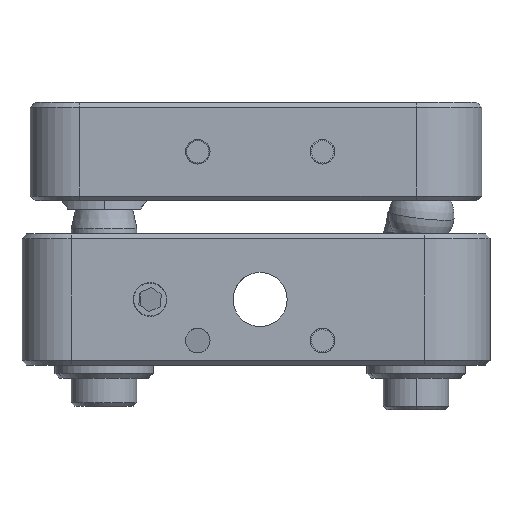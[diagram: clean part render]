
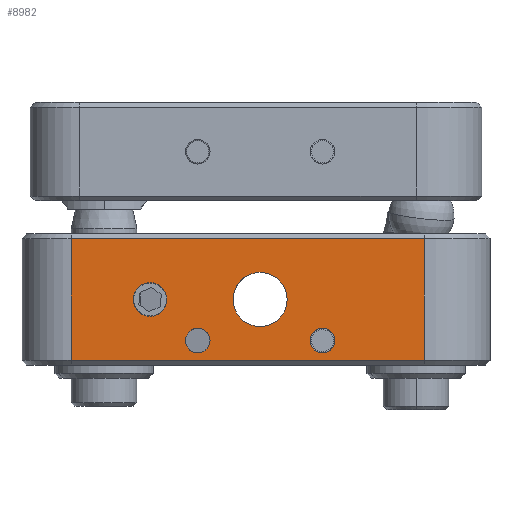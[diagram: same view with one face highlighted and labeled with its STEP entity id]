
A CAD part, front view. The second image highlights one B-rep face of the part: STEP entity #8982.
In plain terms, the highlighted planar face has unit normal (0, -1, 0).
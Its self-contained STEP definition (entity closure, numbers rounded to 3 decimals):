
#30 = AXIS2_PLACEMENT_3D ( 'NONE', #1305, #5904, #2273 ) ;
#134 = DIRECTION ( 'NONE',  ( 0., -1., 0. ) ) ;
#167 = CARTESIAN_POINT ( 'NONE',  ( 10., -14., -8.3 ) ) ;
#255 = CARTESIAN_POINT ( 'NONE',  ( -14.5, -14., -15.7 ) ) ;
#379 = EDGE_LOOP ( 'NONE', ( #8639, #11217, #6384, #1316 ) ) ;
#513 = CARTESIAN_POINT ( 'NONE',  ( 10., -14., -8. ) ) ;
#583 = CARTESIAN_POINT ( 'NONE',  ( 0., -14., -12. ) ) ;
#850 = DIRECTION ( 'NONE',  ( 0., 0., 1. ) ) ;
#1021 = ORIENTED_EDGE ( 'NONE', *, *, #6367, .F. ) ;
#1166 = CARTESIAN_POINT ( 'NONE',  ( -3.8, -14., -14.5 ) ) ;
#1255 = EDGE_LOOP ( 'NONE', ( #2124, #2024 ) ) ;
#1305 = CARTESIAN_POINT ( 'NONE',  ( 3.8, -14., -14.5 ) ) ;
#1316 = ORIENTED_EDGE ( 'NONE', *, *, #5054, .T. ) ;
#1319 = ORIENTED_EDGE ( 'NONE', *, *, #8946, .F. ) ;
#1373 = AXIS2_PLACEMENT_3D ( 'NONE', #583, #9591, #8728 ) ;
#1546 = CARTESIAN_POINT ( 'NONE',  ( -3.8, -14., -15.25 ) ) ;
#1609 = CARTESIAN_POINT ( 'NONE',  ( -14.5, -14., -8. ) ) ;
#1715 = DIRECTION ( 'NONE',  ( 0., -1., 0. ) ) ;
#1918 = DIRECTION ( 'NONE',  ( 0., -1., 0. ) ) ;
#1991 = VERTEX_POINT ( 'NONE', #9292 ) ;
#2024 = ORIENTED_EDGE ( 'NONE', *, *, #6048, .F. ) ;
#2043 = EDGE_CURVE ( 'NONE', #4611, #10778, #7276, .T. ) ;
#2087 = DIRECTION ( 'NONE',  ( 0., 0., 1. ) ) ;
#2124 = ORIENTED_EDGE ( 'NONE', *, *, #4604, .F. ) ;
#2126 = DIRECTION ( 'NONE',  ( 0., -1., 0. ) ) ;
#2185 = EDGE_LOOP ( 'NONE', ( #1021, #3150 ) ) ;
#2273 = DIRECTION ( 'NONE',  ( 0., 0., 1. ) ) ;
#2342 = ORIENTED_EDGE ( 'NONE', *, *, #10282, .F. ) ;
#2377 = FACE_BOUND ( 'NONE', #5579, .T. ) ;
#2535 = PLANE ( 'NONE',  #4433 ) ;
#2547 = DIRECTION ( 'NONE',  ( 0., 0., 1. ) ) ;
#2996 = ORIENTED_EDGE ( 'NONE', *, *, #10758, .F. ) ;
#3150 = ORIENTED_EDGE ( 'NONE', *, *, #4980, .F. ) ;
#3360 = VECTOR ( 'NONE', #3993, 1000. ) ;
#3375 = CIRCLE ( 'NONE', #1373, 1.65 ) ;
#3410 = DIRECTION ( 'NONE',  ( 0., -1., 0. ) ) ;
#3452 = EDGE_CURVE ( 'NONE', #8573, #6971, #8873, .T. ) ;
#3456 = VERTEX_POINT ( 'NONE', #6256 ) ;
#3493 = AXIS2_PLACEMENT_3D ( 'NONE', #1166, #2126, #2087 ) ;
#3614 = CARTESIAN_POINT ( 'NONE',  ( -11.5, -14., -15.7 ) ) ;
#3758 = VERTEX_POINT ( 'NONE', #8585 ) ;
#3872 = LINE ( 'NONE', #513, #5700 ) ;
#3888 = CIRCLE ( 'NONE', #11311, 0.75 ) ;
#3993 = DIRECTION ( 'NONE',  ( -1., 0., 0. ) ) ;
#4029 = DIRECTION ( 'NONE',  ( 0., -1., 0. ) ) ;
#4078 = CIRCLE ( 'NONE', #5070, 1.025 ) ;
#4157 = EDGE_CURVE ( 'NONE', #7408, #4611, #5492, .T. ) ;
#4403 = DIRECTION ( 'NONE',  ( 0., 1., 0. ) ) ;
#4433 = AXIS2_PLACEMENT_3D ( 'NONE', #1609, #4403, #8803 ) ;
#4585 = ORIENTED_EDGE ( 'NONE', *, *, #3452, .F. ) ;
#4604 = EDGE_CURVE ( 'NONE', #3758, #6758, #4078, .T. ) ;
#4608 = CARTESIAN_POINT ( 'NONE',  ( 10., -14., -15.7 ) ) ;
#4611 = VERTEX_POINT ( 'NONE', #3614 ) ;
#4618 = CARTESIAN_POINT ( 'NONE',  ( 0., -14., -12. ) ) ;
#4641 = CIRCLE ( 'NONE', #3493, 0.75 ) ;
#4768 = LINE ( 'NONE', #6687, #3360 ) ;
#4980 = EDGE_CURVE ( 'NONE', #8368, #3456, #4641, .T. ) ;
#5054 = EDGE_CURVE ( 'NONE', #5692, #7408, #4768, .T. ) ;
#5070 = AXIS2_PLACEMENT_3D ( 'NONE', #9768, #1715, #850 ) ;
#5492 = LINE ( 'NONE', #10859, #10834 ) ;
#5579 = EDGE_LOOP ( 'NONE', ( #2342, #2996 ) ) ;
#5585 = DIRECTION ( 'NONE',  ( 0., 0., -1. ) ) ;
#5692 = VERTEX_POINT ( 'NONE', #167 ) ;
#5700 = VECTOR ( 'NONE', #11183, 1000. ) ;
#5755 = VERTEX_POINT ( 'NONE', #8421 ) ;
#5863 = CARTESIAN_POINT ( 'NONE',  ( -6.7, -14., -13.025 ) ) ;
#5904 = DIRECTION ( 'NONE',  ( 0., -1., 0. ) ) ;
#6048 = EDGE_CURVE ( 'NONE', #6758, #3758, #6579, .T. ) ;
#6256 = CARTESIAN_POINT ( 'NONE',  ( -3.8, -14., -13.75 ) ) ;
#6367 = EDGE_CURVE ( 'NONE', #3456, #8368, #10932, .T. ) ;
#6384 = ORIENTED_EDGE ( 'NONE', *, *, #11066, .T. ) ;
#6469 = FACE_OUTER_BOUND ( 'NONE', #379, .T. ) ;
#6579 = CIRCLE ( 'NONE', #7403, 1.025 ) ;
#6687 = CARTESIAN_POINT ( 'NONE',  ( -11.5, -14., -8.3 ) ) ;
#6758 = VERTEX_POINT ( 'NONE', #5863 ) ;
#6971 = VERTEX_POINT ( 'NONE', #8838 ) ;
#7030 = FACE_BOUND ( 'NONE', #1255, .T. ) ;
#7222 = DIRECTION ( 'NONE',  ( 0., 0., 1. ) ) ;
#7276 = LINE ( 'NONE', #255, #10225 ) ;
#7403 = AXIS2_PLACEMENT_3D ( 'NONE', #10519, #3410, #2547 ) ;
#7408 = VERTEX_POINT ( 'NONE', #7836 ) ;
#7545 = AXIS2_PLACEMENT_3D ( 'NONE', #4618, #1918, #10885 ) ;
#7689 = EDGE_LOOP ( 'NONE', ( #4585, #1319 ) ) ;
#7836 = CARTESIAN_POINT ( 'NONE',  ( -11.5, -14., -8.3 ) ) ;
#8157 = AXIS2_PLACEMENT_3D ( 'NONE', #11262, #4029, #8360 ) ;
#8229 = CIRCLE ( 'NONE', #30, 0.75 ) ;
#8360 = DIRECTION ( 'NONE',  ( 0., 0., 1. ) ) ;
#8368 = VERTEX_POINT ( 'NONE', #1546 ) ;
#8421 = CARTESIAN_POINT ( 'NONE',  ( 3.8, -14., -15.25 ) ) ;
#8573 = VERTEX_POINT ( 'NONE', #10833 ) ;
#8585 = CARTESIAN_POINT ( 'NONE',  ( -6.7, -14., -10.975 ) ) ;
#8639 = ORIENTED_EDGE ( 'NONE', *, *, #4157, .T. ) ;
#8728 = DIRECTION ( 'NONE',  ( 0., 0., 1. ) ) ;
#8803 = DIRECTION ( 'NONE',  ( -1., 0., 0. ) ) ;
#8838 = CARTESIAN_POINT ( 'NONE',  ( 0., -14., -13.65 ) ) ;
#8846 = FACE_BOUND ( 'NONE', #2185, .T. ) ;
#8873 = CIRCLE ( 'NONE', #7545, 1.65 ) ;
#8946 = EDGE_CURVE ( 'NONE', #6971, #8573, #3375, .T. ) ;
#8982 = ADVANCED_FACE ( 'NONE', ( #2377, #8846, #6469, #10113, #7030 ), #2535, .F. ) ;
#9292 = CARTESIAN_POINT ( 'NONE',  ( 3.8, -14., -13.75 ) ) ;
#9591 = DIRECTION ( 'NONE',  ( 0., -1., 0. ) ) ;
#9768 = CARTESIAN_POINT ( 'NONE',  ( -6.7, -14., -12. ) ) ;
#10113 = FACE_BOUND ( 'NONE', #7689, .T. ) ;
#10214 = DIRECTION ( 'NONE',  ( 1., 0., 0. ) ) ;
#10225 = VECTOR ( 'NONE', #10214, 1000. ) ;
#10282 = EDGE_CURVE ( 'NONE', #1991, #5755, #8229, .T. ) ;
#10519 = CARTESIAN_POINT ( 'NONE',  ( -6.7, -14., -12. ) ) ;
#10758 = EDGE_CURVE ( 'NONE', #5755, #1991, #3888, .T. ) ;
#10778 = VERTEX_POINT ( 'NONE', #4608 ) ;
#10833 = CARTESIAN_POINT ( 'NONE',  ( 0., -14., -10.35 ) ) ;
#10834 = VECTOR ( 'NONE', #5585, 1000. ) ;
#10841 = CARTESIAN_POINT ( 'NONE',  ( 3.8, -14., -14.5 ) ) ;
#10859 = CARTESIAN_POINT ( 'NONE',  ( -11.5, -14., -8. ) ) ;
#10885 = DIRECTION ( 'NONE',  ( 0., 0., 1. ) ) ;
#10932 = CIRCLE ( 'NONE', #8157, 0.75 ) ;
#11066 = EDGE_CURVE ( 'NONE', #10778, #5692, #3872, .T. ) ;
#11183 = DIRECTION ( 'NONE',  ( 0., 0., 1. ) ) ;
#11217 = ORIENTED_EDGE ( 'NONE', *, *, #2043, .T. ) ;
#11262 = CARTESIAN_POINT ( 'NONE',  ( -3.8, -14., -14.5 ) ) ;
#11311 = AXIS2_PLACEMENT_3D ( 'NONE', #10841, #134, #7222 ) ;
